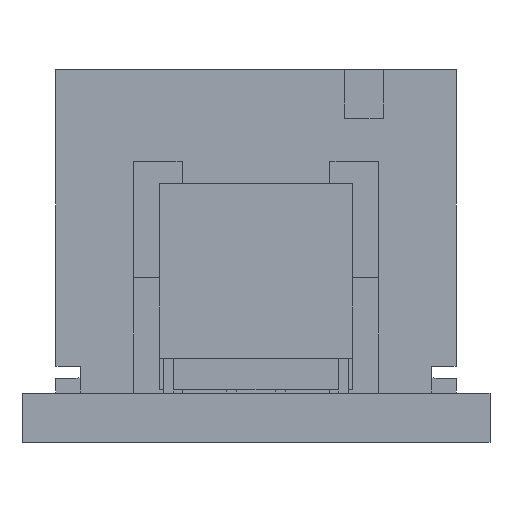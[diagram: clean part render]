
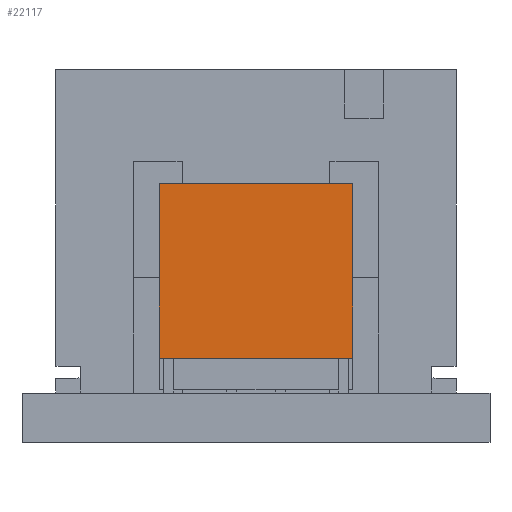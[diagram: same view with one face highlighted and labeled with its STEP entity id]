
A CAD part, front view. The second image highlights one B-rep face of the part: STEP entity #22117.
In plain terms, the highlighted planar face has unit normal (0, -1, 0).
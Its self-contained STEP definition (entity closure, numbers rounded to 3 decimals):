
#1395 = CARTESIAN_POINT ( 'NONE',  ( 6.826, 4.316, 5.336 ) ) ;
#1714 = EDGE_CURVE ( 'NONE', #18778, #22149, #7592, .T. ) ;
#3298 = EDGE_LOOP ( 'NONE', ( #18281, #19339, #21966, #29299 ) ) ;
#4236 = DIRECTION ( 'NONE',  ( 0., 1., 0. ) ) ;
#4705 = EDGE_CURVE ( 'NONE', #22149, #30745, #21624, .T. ) ;
#4906 = EDGE_CURVE ( 'NONE', #18778, #19974, #25112, .T. ) ;
#6605 = DIRECTION ( 'NONE',  ( 0., 0., -1. ) ) ;
#7084 = CARTESIAN_POINT ( 'NONE',  ( 6.826, 4.316, 1.736 ) ) ;
#7267 = CARTESIAN_POINT ( 'NONE',  ( 2.826, 4.316, 5.336 ) ) ;
#7592 = LINE ( 'NONE', #7267, #15814 ) ;
#10211 = AXIS2_PLACEMENT_3D ( 'NONE', #22062, #4236, #11877 ) ;
#10307 = DIRECTION ( 'NONE',  ( 1., 0., 0. ) ) ;
#11593 = VECTOR ( 'NONE', #18435, 1000. ) ;
#11877 = DIRECTION ( 'NONE',  ( -1., 0., 0. ) ) ;
#13498 = LINE ( 'NONE', #16032, #11593 ) ;
#14959 = CARTESIAN_POINT ( 'NONE',  ( 2.826, 4.316, 5.336 ) ) ;
#15814 = VECTOR ( 'NONE', #10307, 1000. ) ;
#16032 = CARTESIAN_POINT ( 'NONE',  ( 2.826, 4.316, 1.736 ) ) ;
#17679 = EDGE_CURVE ( 'NONE', #19974, #30745, #13498, .T. ) ;
#18281 = ORIENTED_EDGE ( 'NONE', *, *, #4906, .T. ) ;
#18435 = DIRECTION ( 'NONE',  ( 1., 0., 0. ) ) ;
#18778 = VERTEX_POINT ( 'NONE', #28467 ) ;
#19339 = ORIENTED_EDGE ( 'NONE', *, *, #17679, .T. ) ;
#19974 = VERTEX_POINT ( 'NONE', #20898 ) ;
#20898 = CARTESIAN_POINT ( 'NONE',  ( 2.826, 4.316, 1.736 ) ) ;
#21624 = LINE ( 'NONE', #1395, #24415 ) ;
#21797 = DIRECTION ( 'NONE',  ( 0., 0., -1. ) ) ;
#21966 = ORIENTED_EDGE ( 'NONE', *, *, #4705, .F. ) ;
#22062 = CARTESIAN_POINT ( 'NONE',  ( 2.826, 4.316, 5.336 ) ) ;
#22117 = ADVANCED_FACE ( 'NONE', ( #30374 ), #27843, .F. ) ;
#22149 = VERTEX_POINT ( 'NONE', #26113 ) ;
#23905 = VECTOR ( 'NONE', #6605, 1000. ) ;
#24415 = VECTOR ( 'NONE', #21797, 1000. ) ;
#25112 = LINE ( 'NONE', #14959, #23905 ) ;
#26113 = CARTESIAN_POINT ( 'NONE',  ( 6.826, 4.316, 5.336 ) ) ;
#27843 = PLANE ( 'NONE',  #10211 ) ;
#28467 = CARTESIAN_POINT ( 'NONE',  ( 2.826, 4.316, 5.336 ) ) ;
#29299 = ORIENTED_EDGE ( 'NONE', *, *, #1714, .F. ) ;
#30374 = FACE_OUTER_BOUND ( 'NONE', #3298, .T. ) ;
#30745 = VERTEX_POINT ( 'NONE', #7084 ) ;
